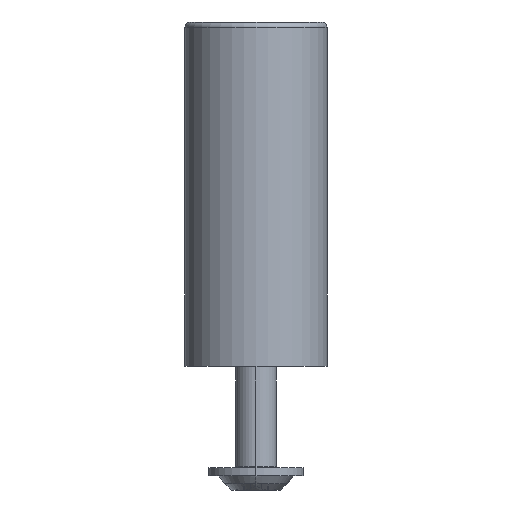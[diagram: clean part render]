
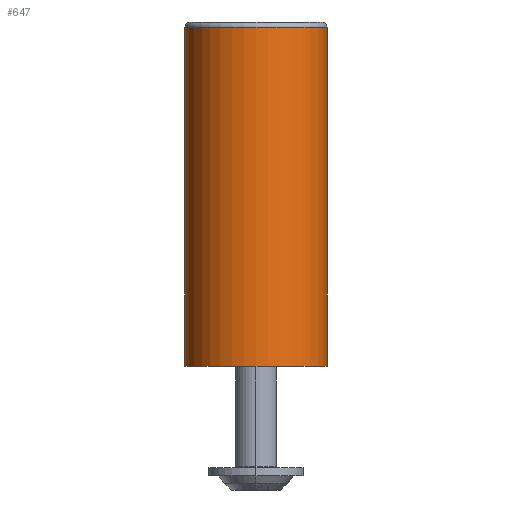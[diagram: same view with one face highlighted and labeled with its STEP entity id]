
A CAD part, left-side view. The second image highlights one B-rep face of the part: STEP entity #647.
In plain terms, the highlighted cylindrical face has radius 7 mm (diameter 14 mm), a partial arc.
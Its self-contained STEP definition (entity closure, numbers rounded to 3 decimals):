
#16=CARTESIAN_POINT('',(-160.,0.,0.));
#17=DIRECTION('',(0.,0.,1.));
#18=DIRECTION('',(0.,1.,0.));
#19=AXIS2_PLACEMENT_3D('',#16,#17,#18);
#68=DIRECTION('',(0.,0.,1.));
#69=VECTOR('',#68,7.362);
#70=CARTESIAN_POINT('',(-160.,-7.,26.));
#71=LINE('',#70,#69);
#181=DIRECTION('',(0.,0.,1.));
#182=VECTOR('',#181,26.);
#183=CARTESIAN_POINT('',(-160.,-7.,0.));
#184=LINE('',#183,#182);
#185=DIRECTION('',(0.,0.,-1.));
#186=VECTOR('',#185,26.);
#187=CARTESIAN_POINT('',(-160.,7.,26.));
#188=LINE('',#187,#186);
#189=DIRECTION('',(0.,0.,1.));
#190=VECTOR('',#189,7.362);
#191=CARTESIAN_POINT('',(-160.,7.,26.));
#192=LINE('',#191,#190);
#193=CARTESIAN_POINT('',(-160.,0.,33.362));
#194=DIRECTION('',(0.,0.,-1.));
#195=DIRECTION('',(0.,-1.,0.));
#196=AXIS2_PLACEMENT_3D('',#193,#194,#195);
#337=CARTESIAN_POINT('',(-160.,7.,0.));
#338=CARTESIAN_POINT('',(-160.,-7.,0.));
#339=VERTEX_POINT('',#337);
#340=VERTEX_POINT('',#338);
#342=CARTESIAN_POINT('',(-160.,7.,26.));
#344=VERTEX_POINT('',#342);
#347=CARTESIAN_POINT('',(-160.,-7.,26.));
#348=VERTEX_POINT('',#347);
#361=CARTESIAN_POINT('',(-160.,-7.,33.362));
#362=CARTESIAN_POINT('',(-160.,7.,33.362));
#363=VERTEX_POINT('',#361);
#364=VERTEX_POINT('',#362);
#632=CARTESIAN_POINT('',(-160.,0.,0.));
#633=DIRECTION('',(0.,0.,1.));
#634=DIRECTION('',(1.,0.,0.));
#635=AXIS2_PLACEMENT_3D('',#632,#633,#634);
#636=CYLINDRICAL_SURFACE('',#635,7.);
#638=ORIENTED_EDGE('',*,*,#637,.F.);
#639=ORIENTED_EDGE('',*,*,#434,.F.);
#641=ORIENTED_EDGE('',*,*,#640,.F.);
#642=ORIENTED_EDGE('',*,*,#544,.T.);
#643=ORIENTED_EDGE('',*,*,#623,.F.);
#644=ORIENTED_EDGE('',*,*,#484,.F.);
#645=EDGE_LOOP('',(#638,#639,#641,#642,#643,#644));
#646=FACE_OUTER_BOUND('',#645,.F.);
#647=ADVANCED_FACE('',(#646),#636,.T.);
#20=CIRCLE('',#19,7.);
#197=CIRCLE('',#196,7.);
#434=EDGE_CURVE('',#339,#340,#20,.T.);
#484=EDGE_CURVE('',#348,#363,#71,.T.);
#544=EDGE_CURVE('',#344,#364,#192,.T.);
#623=EDGE_CURVE('',#363,#364,#197,.T.);
#637=EDGE_CURVE('',#340,#348,#184,.T.);
#640=EDGE_CURVE('',#344,#339,#188,.T.);
